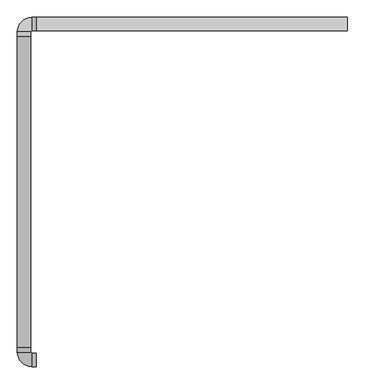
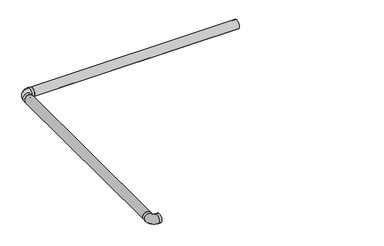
"""IFC4 building model written with IfcOpenShell, lengths in millimetres: light fixture geometry, ARTEMIDE-AoL-StandAlone-SquareRectangular_Suspended : StandALone_Suspended_SquareRectangular-1321x1321mm 9488lm 3000K."""

from ifc_helpers import new_model, si_unit, point, frame, frame_2d, origin, place, context, project, spatial, polyline, circle_curve, ellipse_curve, trimmed, segment, composite_curve, outline, extrude, source, transform, mapped, element, save
from ifc_brep_helpers import plane_surface, cylinder_surface, revolved_surface, advanced_brep


def light_fixture_a19d2202(model_context):
    return source(origin(), model_context, "Body", "SolidModel", [
        advanced_brep(
        [(13.25, -69.5, 502.9333396), (13.25, -69.5, 507.259212), (9.695913, -69.5, 507.259212), (9.695913, -69.5, 508.785971), (15.4937425, -69.5, 508.785971), (15.4937425, -69.5, 514.4273482), (34.5062575, -69.5, 514.4273482), (34.5062575, -69.5, 508.785971), (40.304087, -69.5, 508.785971), (40.304087, -69.5, 507.259212), (36.75, -69.5, 507.259212), (36.75, -69.5, 502.9333396), (70.5, -126.75, 502.9333396), (70.5, -103.25, 502.9333396), (70.5, -103.25, 507.259212), (70.5, -99.695913, 507.259212), (70.5, -99.695913, 508.785971), (70.5, -105.4937425, 508.785971), (70.5, -105.4937425, 514.4273482), (70.5, -124.5062575, 514.4273482), (70.5, -124.5062575, 508.785971), (70.5, -130.304087, 508.785971), (70.5, -130.304087, 507.259212), (70.5, -126.75, 507.259212), (36.75, -85.0, 502.9333396), (13.25, -85.0, 502.9333396), (36.75, -85.0, 507.259212), (40.304087, -85.0, 507.259212), (55.0, -99.695913, 507.259212), (55.0, -103.25, 507.259212), (40.304087, -85.0, 508.785971), (34.5062575, -85.0, 508.785971), (55.0, -105.4937425, 508.785971), (55.0, -99.695913, 508.785971), (34.5062575, -85.0, 514.4273482), (15.4937425, -85.0, 514.4273482), (55.0, -124.5062575, 514.4273482), (55.0, -105.4937425, 514.4273482), (15.4937425, -85.0, 508.785971), (9.695913, -85.0, 508.785971), (55.0, -130.304087, 508.785971), (55.0, -124.5062575, 508.785971), (9.695913, -85.0, 507.259212), (13.25, -85.0, 507.259212), (55.0, -126.75, 507.259212), (55.0, -130.304087, 507.259212), (55.0, -126.75, 502.9333396), (55.0, -103.25, 502.9333396)],
        [
            (0, 1),
            (1, 2),
            (2, 3),
            (3, 4),
            (4, 5),
            (5, 6),
            (6, 7),
            (7, 8),
            (8, 9),
            (9, 10),
            (10, 11),
            (11, 0, circle_curve(frame((25.0, -69.5, 525.0), z_axis=(0.0, 1.0, 0.0), x_axis=(1.0, 0.0, 0.0)), 25.0)),
            (12, 13, circle_curve(frame((70.5, -115.0, 525.0), z_axis=(1.0, 0.0, 0.0), x_axis=(0.0, 1.0, 0.0)), 25.0)),
            (13, 14),
            (14, 15),
            (15, 16),
            (16, 17),
            (17, 18),
            (18, 19),
            (19, 20),
            (20, 21),
            (21, 22),
            (22, 23),
            (23, 12),
            (11, 24),
            (24, 25, circle_curve(frame((25.0, -85.0, 525.0), z_axis=(0.0, 1.0, 0.0), x_axis=(1.0, 0.0, 0.0)), 25.0)),
            (25, 0),
            (10, 26),
            (26, 24),
            (9, 27),
            (27, 28, circle_curve(frame((55.0, -85.0, 507.259212), z_axis=(0.0, 0.0, 1.0), x_axis=(-1.0, 0.0, 0.0)), 14.695913)),
            (28, 15),
            (14, 29),
            (29, 26, circle_curve(frame((55.0, -85.0, 507.259212), z_axis=(0.0, 0.0, -1.0), x_axis=(-1.0, 0.0, 0.0)), 18.25)),
            (8, 30),
            (30, 27),
            (7, 31),
            (31, 32, circle_curve(frame((55.0, -85.0, 508.785971), z_axis=(0.0, 0.0, 1.0), x_axis=(-1.0, 0.0, 0.0)), 20.4937425)),
            (32, 17),
            (16, 33),
            (33, 30, circle_curve(frame((55.0, -85.0, 508.785971), z_axis=(0.0, 0.0, -1.0), x_axis=(-1.0, 0.0, 0.0)), 14.695913)),
            (6, 34),
            (34, 31),
            (5, 35),
            (35, 36, circle_curve(frame((55.0, -85.0, 514.4273482), z_axis=(0.0, 0.0, 1.0), x_axis=(-1.0, 0.0, 0.0)), 39.5062575)),
            (36, 19),
            (18, 37),
            (37, 34, circle_curve(frame((55.0, -85.0, 514.4273482), z_axis=(0.0, 0.0, -1.0), x_axis=(-1.0, 0.0, 0.0)), 20.4937425)),
            (4, 38),
            (38, 35),
            (3, 39),
            (39, 40, circle_curve(frame((55.0, -85.0, 508.785971), z_axis=(0.0, 0.0, 1.0), x_axis=(-1.0, 0.0, 0.0)), 45.304087)),
            (40, 21),
            (20, 41),
            (41, 38, circle_curve(frame((55.0, -85.0, 508.785971), z_axis=(0.0, 0.0, -1.0), x_axis=(-1.0, 0.0, 0.0)), 39.5062575)),
            (2, 42),
            (42, 39),
            (1, 43),
            (43, 44, circle_curve(frame((55.0, -85.0, 507.259212), z_axis=(0.0, 0.0, 1.0), x_axis=(-1.0, 0.0, 0.0)), 41.75)),
            (44, 23),
            (22, 45),
            (45, 42, circle_curve(frame((55.0, -85.0, 507.259212), z_axis=(0.0, 0.0, -1.0), x_axis=(-1.0, 0.0, 0.0)), 45.304087)),
            (25, 43),
            (46, 25, circle_curve(frame((55.0, -85.0, 502.9333396), z_axis=(0.0, 0.0, -1.0), x_axis=(-1.0, 0.0, 0.0)), 41.75)),
            (24, 47, circle_curve(frame((55.0, -85.0, 502.9333396), z_axis=(0.0, 0.0, 1.0), x_axis=(-1.0, 0.0, 0.0)), 18.25)),
            (47, 46, circle_curve(frame((55.0, -115.0, 525.0), z_axis=(-1.0, 0.0, 0.0), x_axis=(0.0, 1.0, 0.0)), 25.0)),
            (29, 47),
            (33, 28),
            (37, 32),
            (41, 36),
            (45, 40),
            (46, 44),
            (47, 13),
            (12, 46),
        ],
        [
            plane_surface(frame((25.0, -69.5, 500.0), z_axis=(0.0, 1.0, 0.0), x_axis=(0.0, 0.0, 1.0))),
            plane_surface(frame((70.5, -115.0, 500.0), z_axis=(1.0, 0.0, 0.0), x_axis=(0.0, 0.0, 1.0))),
            cylinder_surface(frame((25.0, -69.5, 525.0), z_axis=(0.0, 1.0, 0.0), x_axis=(1.0, 0.0, 0.0)), 25.0),
            plane_surface(frame((36.75, -69.5, 507.259212), z_axis=(1.0, 0.0, 0.0), x_axis=(0.0, -1.0, 0.0))),
            plane_surface(frame((40.304087, -69.5, 507.259212), z_axis=(0.0, 0.0, -1.0), x_axis=(0.0, -1.0, 0.0))),
            plane_surface(frame((40.304087, -69.5, 508.785971), z_axis=(1.0, 0.0, 0.0), x_axis=(0.0, -1.0, 0.0))),
            plane_surface(frame((34.5062575, -69.5, 508.785971), z_axis=(0.0, 0.0, 1.0), x_axis=(0.0, -1.0, 0.0))),
            plane_surface(frame((34.5062575, -69.5, 514.4273482), z_axis=(1.0, 0.0, 0.0), x_axis=(0.0, -1.0, 0.0))),
            plane_surface(frame((15.4937425, -69.5, 514.4273482), z_axis=(0.0, 0.0, 1.0), x_axis=(0.0, -1.0, 0.0))),
            plane_surface(frame((15.4937425, -69.5, 508.785971), z_axis=(-1.0, 0.0, 0.0), x_axis=(0.0, -1.0, 0.0))),
            plane_surface(frame((9.695913, -69.5, 508.785971), z_axis=(0.0, 0.0, 1.0), x_axis=(0.0, -1.0, 0.0))),
            plane_surface(frame((9.695913, -69.5, 507.259212), z_axis=(-1.0, 0.0, 0.0), x_axis=(0.0, -1.0, 0.0))),
            plane_surface(frame((13.25, -69.5, 507.259212), z_axis=(0.0, 0.0, -1.0), x_axis=(0.0, -1.0, 0.0))),
            plane_surface(frame((13.25, -69.5, 502.9333396), z_axis=(-1.0, 0.0, 0.0), x_axis=(0.0, -1.0, 0.0))),
            revolved_surface(trimmed(ellipse_curve(frame((25.0, -85.0, 525.0), z_axis=(0.0, 1.0, 0.0), x_axis=(1.0, 0.0, 0.0)), 25.0, 25.0), [point((36.75, -85.0, 502.9333396))], [point((13.25, -85.0, 502.9333396))], True, "CARTESIAN"), (55.0, -85.0, 500.0), (0.0, 0.0, 1.0)),
            revolved_surface(polyline([(36.75, -85.0, 507.259212), (36.75, -85.0, 502.9333396)]), (55.0, -85.0, 500.0), (0.0, 0.0, 1.0)),
            revolved_surface(polyline([(40.304087, -85.0, 508.785971), (40.304087, -85.0, 507.259212)]), (55.0, -85.0, 500.0), (0.0, 0.0, 1.0)),
            revolved_surface(polyline([(34.506257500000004, -85.0, 514.4273482), (34.506257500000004, -85.0, 508.785971)]), (55.0, -85.0, 500.0), (0.0, 0.0, 1.0)),
            cylinder_surface(frame((55.0, -85.0, 500.0), z_axis=(0.0, 0.0, 1.0), x_axis=(-1.0, 0.0, 0.0)), 39.5062575),
            cylinder_surface(frame((55.0, -85.0, 500.0), z_axis=(0.0, 0.0, 1.0), x_axis=(-1.0, 0.0, 0.0)), 45.304087),
            cylinder_surface(frame((55.0, -85.0, 500.0), z_axis=(0.0, 0.0, 1.0), x_axis=(-1.0, 0.0, 0.0)), 41.75),
            cylinder_surface(frame((55.0, -115.0, 525.0), z_axis=(-1.0, 0.0, 0.0), x_axis=(0.0, 1.0, 0.0)), 25.0),
            plane_surface(frame((55.0, -103.25, 507.259212), z_axis=(0.0, 1.0, 0.0), x_axis=(1.0, 0.0, 0.0))),
            plane_surface(frame((55.0, -99.695913, 508.785971), z_axis=(0.0, 1.0, 0.0), x_axis=(1.0, 0.0, 0.0))),
            plane_surface(frame((55.0, -105.4937425, 514.4273482), z_axis=(0.0, 1.0, 0.0), x_axis=(1.0, 0.0, 0.0))),
            plane_surface(frame((55.0, -124.5062575, 508.785971), z_axis=(0.0, -1.0, 0.0), x_axis=(1.0, 0.0, 0.0))),
            plane_surface(frame((55.0, -130.304087, 507.259212), z_axis=(0.0, -1.0, 0.0), x_axis=(1.0, 0.0, 0.0))),
            plane_surface(frame((55.0, -126.75, 502.9333396), z_axis=(0.0, -1.0, 0.0), x_axis=(1.0, 0.0, 0.0))),
        ],
        [
            (0, [[1, 2, 3, 4, 5, 6, 7, 8, 9, 10, 11, 12]]),
            (1, [[13, 14, 15, 16, 17, 18, 19, 20, 21, 22, 23, 24]]),
            (2, [[-12, 25, 26, 27]]),
            (3, [[-11, 28, 29, -25]]),
            (4, [[-10, 30, 31, 32, -15, 33, 34, -28]]),
            (5, [[-9, 35, 36, -30]]),
            (6, [[-8, 37, 38, 39, -17, 40, 41, -35]]),
            (7, [[-7, 42, 43, -37]]),
            (8, [[-6, 44, 45, 46, -19, 47, 48, -42]]),
            (9, [[-5, 49, 50, -44]]),
            (10, [[-4, 51, 52, 53, -21, 54, 55, -49]]),
            (11, [[-3, 56, 57, -51]]),
            (12, [[-2, 58, 59, 60, -23, 61, 62, -56]]),
            (13, [[-1, -27, 63, -58]]),
            (14, [[64, -26, 65, 66]]),
            (15, [[-65, -29, -34, 67]]),
            (16, [[-31, -36, -41, 68]]),
            (17, [[-38, -43, -48, 69]]),
            (18, [[-45, -50, -55, 70]]),
            (19, [[-52, -57, -62, 71]]),
            (20, [[-59, -63, -64, 72]]),
            (21, [[-66, 73, -13, 74]]),
            (22, [[-67, -33, -14, -73]]),
            (23, [[-68, -40, -16, -32]]),
            (24, [[-69, -47, -18, -39]]),
            (25, [[-70, -54, -20, -46]]),
            (26, [[-71, -61, -22, -53]]),
            (27, [[-72, -74, -24, -60]]),
        ],
    ),
        advanced_brep(
        [(36.75, -69.5, 502.9333396), (36.75, -69.5, 507.259212), (38.667754, -69.5, 507.259212), (38.667754, -69.5, 505.8288843), (40.617754, -69.5, 507.2440748), (40.617754, -69.5, 509.244074), (37.667754, -69.5, 509.244074), (37.667754, -69.5, 510.744074), (42.2779794, -69.5, 510.744074), (7.7220206, -69.5, 510.744074), (12.332246, -69.5, 510.744074), (12.332246, -69.5, 509.244074), (9.382246, -69.5, 509.244074), (9.382246, -69.5, 507.2440748), (11.332246, -69.5, 505.8288843), (11.332246, -69.5, 507.259212), (13.25, -69.5, 507.259212), (13.25, -69.5, 502.9333396), (70.5, -103.25, 502.9333396), (70.5, -126.75, 502.9333396), (70.5, -126.75, 507.259212), (70.5, -128.667754, 507.259212), (70.5, -128.667754, 505.8288843), (70.5, -130.617754, 507.2440748), (70.5, -130.617754, 509.244074), (70.5, -127.667754, 509.244074), (70.5, -127.667754, 510.744074), (70.5, -132.2779794, 510.744074), (70.5, -97.7220206, 510.744074), (70.5, -102.332246, 510.744074), (70.5, -102.332246, 509.244074), (70.5, -99.382246, 509.244074), (70.5, -99.382246, 507.2440748), (70.5, -101.332246, 505.8288843), (70.5, -101.332246, 507.259212), (70.5, -103.25, 507.259212), (13.25, -85.0, 502.9333396), (36.75, -85.0, 502.9333396), (13.25, -85.0, 507.259212), (11.332246, -85.0, 507.259212), (55.0, -128.667754, 507.259212), (55.0, -126.75, 507.259212), (11.332246, -85.0, 505.8288843), (9.382246, -85.0, 507.2440748), (9.382246, -85.0, 509.244074), (12.332246, -85.0, 509.244074), (55.0, -127.667754, 509.244074), (55.0, -130.617754, 509.244074), (12.332246, -85.0, 510.744074), (7.7220206, -85.0, 510.744074), (55.0, -132.2779794, 510.744074), (55.0, -127.667754, 510.744074), (42.2779794, -85.0, 510.744074), (37.667754, -85.0, 510.744074), (55.0, -102.332246, 510.744074), (55.0, -97.7220206, 510.744074), (37.667754, -85.0, 509.244074), (40.617754, -85.0, 509.244074), (55.0, -99.382246, 509.244074), (55.0, -102.332246, 509.244074), (40.617754, -85.0, 507.2440748), (38.667754, -85.0, 505.8288843), (38.667754, -85.0, 507.259212), (36.75, -85.0, 507.259212), (55.0, -103.25, 507.259212), (55.0, -101.332246, 507.259212), (55.0, -103.25, 502.9333396), (55.0, -126.75, 502.9333396), (55.0, -128.667754, 505.8288843), (55.0, -130.617754, 507.2440748), (55.0, -99.382246, 507.2440748), (55.0, -101.332246, 505.8288843)],
        [
            (0, 1),
            (1, 2),
            (2, 3),
            (3, 4),
            (4, 5),
            (5, 6),
            (6, 7),
            (7, 8),
            (8, 9, circle_curve(frame((25.0, -69.5, 525.0), z_axis=(0.0, -1.0, 0.0), x_axis=(1.0, 0.0, 0.0)), 22.4)),
            (9, 10),
            (10, 11),
            (11, 12),
            (12, 13),
            (13, 14),
            (14, 15),
            (15, 16),
            (16, 17),
            (17, 0, circle_curve(frame((25.0, -69.5, 525.0), z_axis=(0.0, 1.0, 0.0), x_axis=(1.0, 0.0, 0.0)), 25.0)),
            (18, 19, circle_curve(frame((70.5, -115.0, 525.0), z_axis=(1.0, 0.0, 0.0), x_axis=(0.0, 1.0, 0.0)), 25.0)),
            (19, 20),
            (20, 21),
            (21, 22),
            (22, 23),
            (23, 24),
            (24, 25),
            (25, 26),
            (26, 27),
            (27, 28, circle_curve(frame((70.5, -115.0, 525.0), z_axis=(-1.0, 0.0, 0.0), x_axis=(0.0, 1.0, 0.0)), 22.4)),
            (28, 29),
            (29, 30),
            (30, 31),
            (31, 32),
            (32, 33),
            (33, 34),
            (34, 35),
            (35, 18),
            (17, 36),
            (36, 37, circle_curve(frame((25.0, -85.0, 525.0), z_axis=(0.0, 1.0, 0.0), x_axis=(1.0, 0.0, 0.0)), 25.0)),
            (37, 0),
            (16, 38),
            (38, 36),
            (15, 39),
            (39, 40, circle_curve(frame((55.0, -85.0, 507.259212), z_axis=(0.0, 0.0, 1.0), x_axis=(-1.0, 0.0, 0.0)), 43.667754)),
            (40, 21),
            (20, 41),
            (41, 38, circle_curve(frame((55.0, -85.0, 507.259212), z_axis=(0.0, 0.0, -1.0), x_axis=(-1.0, 0.0, 0.0)), 41.75)),
            (14, 42),
            (42, 39),
            (13, 43),
            (43, 42),
            (12, 44),
            (44, 43),
            (11, 45),
            (45, 46, circle_curve(frame((55.0, -85.0, 509.244074), z_axis=(0.0, 0.0, 1.0), x_axis=(-1.0, 0.0, 0.0)), 42.667754)),
            (46, 25),
            (24, 47),
            (47, 44, circle_curve(frame((55.0, -85.0, 509.244074), z_axis=(0.0, 0.0, -1.0), x_axis=(-1.0, 0.0, 0.0)), 45.617754)),
            (10, 48),
            (48, 45),
            (9, 49),
            (49, 50, circle_curve(frame((55.0, -85.0, 510.744074), z_axis=(0.0, 0.0, 1.0), x_axis=(-1.0, 0.0, 0.0)), 47.2779794)),
            (50, 27),
            (26, 51),
            (51, 48, circle_curve(frame((55.0, -85.0, 510.744074), z_axis=(0.0, 0.0, -1.0), x_axis=(-1.0, 0.0, 0.0)), 42.667754)),
            (8, 52),
            (52, 49, circle_curve(frame((25.0, -85.0, 525.0), z_axis=(0.0, -1.0, 0.0), x_axis=(1.0, 0.0, 0.0)), 22.4)),
            (7, 53),
            (53, 54, circle_curve(frame((55.0, -85.0, 510.744074), z_axis=(0.0, 0.0, 1.0), x_axis=(-1.0, 0.0, 0.0)), 17.332246)),
            (54, 29),
            (28, 55),
            (55, 52, circle_curve(frame((55.0, -85.0, 510.744074), z_axis=(0.0, 0.0, -1.0), x_axis=(-1.0, 0.0, 0.0)), 12.7220206)),
            (6, 56),
            (56, 53),
            (5, 57),
            (57, 58, circle_curve(frame((55.0, -85.0, 509.244074), z_axis=(0.0, 0.0, 1.0), x_axis=(-1.0, 0.0, 0.0)), 14.382246)),
            (58, 31),
            (30, 59),
            (59, 56, circle_curve(frame((55.0, -85.0, 509.244074), z_axis=(0.0, 0.0, -1.0), x_axis=(-1.0, 0.0, 0.0)), 17.332246)),
            (4, 60),
            (60, 57),
            (3, 61),
            (61, 60),
            (2, 62),
            (62, 61),
            (1, 63),
            (63, 64, circle_curve(frame((55.0, -85.0, 507.259212), z_axis=(0.0, 0.0, 1.0), x_axis=(-1.0, 0.0, 0.0)), 18.25)),
            (64, 35),
            (34, 65),
            (65, 62, circle_curve(frame((55.0, -85.0, 507.259212), z_axis=(0.0, 0.0, -1.0), x_axis=(-1.0, 0.0, 0.0)), 16.332246)),
            (37, 63),
            (66, 37, circle_curve(frame((55.0, -85.0, 502.9333396), z_axis=(0.0, 0.0, -1.0), x_axis=(-1.0, 0.0, 0.0)), 18.25)),
            (36, 67, circle_curve(frame((55.0, -85.0, 502.9333396), z_axis=(0.0, 0.0, 1.0), x_axis=(-1.0, 0.0, 0.0)), 41.75)),
            (67, 66, circle_curve(frame((55.0, -115.0, 525.0), z_axis=(-1.0, 0.0, 0.0), x_axis=(0.0, 1.0, 0.0)), 25.0)),
            (41, 67),
            (42, 68, circle_curve(frame((55.0, -85.0, 505.8288843), z_axis=(0.0, 0.0, 1.0), x_axis=(-1.0, 0.0, 0.0)), 43.667754)),
            (68, 40),
            (43, 69, circle_curve(frame((55.0, -85.0, 507.2440748), z_axis=(0.0, 0.0, 1.0), x_axis=(-1.0, 0.0, 0.0)), 45.617754)),
            (69, 68),
            (47, 69),
            (51, 46),
            (55, 50, circle_curve(frame((55.0, -115.0, 525.0), z_axis=(1.0, 0.0, 0.0), x_axis=(0.0, 1.0, 0.0)), 22.4)),
            (59, 54),
            (60, 70, circle_curve(frame((55.0, -85.0, 507.2440748), z_axis=(0.0, 0.0, 1.0), x_axis=(-1.0, 0.0, 0.0)), 14.382246)),
            (70, 58),
            (61, 71, circle_curve(frame((55.0, -85.0, 505.8288843), z_axis=(0.0, 0.0, 1.0), x_axis=(-1.0, 0.0, 0.0)), 16.332246)),
            (71, 70),
            (65, 71),
            (66, 64),
            (67, 19),
            (18, 66),
            (68, 22),
            (69, 23),
            (70, 32),
            (71, 33),
        ],
        [
            plane_surface(frame((25.0, -69.5, 500.0), z_axis=(0.0, 1.0, 0.0), x_axis=(0.0, 0.0, 1.0))),
            plane_surface(frame((70.5, -115.0, 500.0), z_axis=(1.0, 0.0, 0.0), x_axis=(0.0, 0.0, 1.0))),
            cylinder_surface(frame((25.0, -69.5, 525.0), z_axis=(0.0, 1.0, 0.0), x_axis=(1.0, 0.0, 0.0)), 25.0),
            plane_surface(frame((13.25, -69.5, 507.259212), z_axis=(1.0, 0.0, 0.0), x_axis=(0.0, -1.0, 0.0))),
            plane_surface(frame((11.332246, -69.5, 507.259212), z_axis=(0.0, 0.0, 1.0), x_axis=(0.0, -1.0, 0.0))),
            plane_surface(frame((11.332246, -69.5, 505.8288843), z_axis=(-1.0, 0.0, 0.0), x_axis=(0.0, -1.0, 0.0))),
            plane_surface(frame((9.382246, -69.5, 507.2440748), z_axis=(0.5873593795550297, 0.0, 0.8093262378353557), x_axis=(0.0, -1.0, 0.0))),
            plane_surface(frame((9.382246, -69.5, 509.244074), z_axis=(1.0, 0.0, 0.0), x_axis=(0.0, -1.0, 0.0))),
            plane_surface(frame((12.332246, -69.5, 509.244074), z_axis=(0.0, 0.0, -1.0), x_axis=(0.0, -1.0, 0.0))),
            plane_surface(frame((12.332246, -69.5, 510.744074), z_axis=(1.0, 0.0, 0.0), x_axis=(0.0, -1.0, 0.0))),
            plane_surface(frame((7.7220206, -69.5, 510.744074), z_axis=(0.0, 0.0, 1.0), x_axis=(0.0, -1.0, 0.0))),
            revolved_surface(polyline([(47.4, -85.0, 525.0), (47.4, -69.5, 525.0)]), (25.0, -69.5, 525.0), (0.0, -1.0, 0.0)),
            plane_surface(frame((37.667754, -69.5, 510.744074), z_axis=(0.0, 0.0, 1.0), x_axis=(0.0, -1.0, 0.0))),
            plane_surface(frame((37.667754, -69.5, 509.244074), z_axis=(-1.0, 0.0, 0.0), x_axis=(0.0, -1.0, 0.0))),
            plane_surface(frame((40.617754, -69.5, 509.244074), z_axis=(0.0, 0.0, -1.0), x_axis=(0.0, -1.0, 0.0))),
            plane_surface(frame((40.617754, -69.5, 507.2440748), z_axis=(-1.0, 0.0, 0.0), x_axis=(0.0, -1.0, 0.0))),
            plane_surface(frame((38.667754, -69.5, 505.8288843), z_axis=(-0.5873593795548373, 0.0, 0.8093262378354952), x_axis=(0.0, -1.0, 0.0))),
            plane_surface(frame((38.667754, -69.5, 507.259212), z_axis=(1.0, 0.0, 0.0), x_axis=(0.0, -1.0, 0.0))),
            plane_surface(frame((36.75, -69.5, 507.259212), z_axis=(0.0, 0.0, 1.0), x_axis=(0.0, -1.0, 0.0))),
            plane_surface(frame((36.75, -69.5, 502.9333396), z_axis=(-1.0, 0.0, 0.0), x_axis=(0.0, -1.0, 0.0))),
            revolved_surface(trimmed(ellipse_curve(frame((25.0, -85.0, 525.0), z_axis=(0.0, 1.0, 0.0), x_axis=(1.0, 0.0, 0.0)), 25.0, 25.0), [point((13.25, -85.0, 502.9333396))], [point((36.75, -85.0, 502.9333396))], True, "CARTESIAN"), (55.0, -85.0, 500.0), (0.0, 0.0, 1.0)),
            revolved_surface(polyline([(13.25, -85.0, 507.259212), (13.25, -85.0, 502.9333396)]), (55.0, -85.0, 500.0), (0.0, 0.0, 1.0)),
            cylinder_surface(frame((55.0, -85.0, 500.0), z_axis=(0.0, 0.0, 1.0), x_axis=(-1.0, 0.0, 0.0)), 43.667754),
            revolved_surface(polyline([(9.382246, -85.0, 507.2440748), (11.332246, -85.0, 505.8288843)]), (55.0, -85.0, 500.0), (0.0, 0.0, 1.0)),
            revolved_surface(polyline([(9.382246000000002, -85.0, 509.244074), (9.382246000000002, -85.0, 507.2440748)]), (55.0, -85.0, 500.0), (0.0, 0.0, 1.0)),
            revolved_surface(polyline([(12.332245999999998, -85.0, 510.744074), (12.332245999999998, -85.0, 509.244074)]), (55.0, -85.0, 500.0), (0.0, 0.0, 1.0)),
            revolved_surface(trimmed(ellipse_curve(frame((25.0, -85.0, 525.0), z_axis=(0.0, -1.0, 0.0), x_axis=(1.0, 0.0, 0.0)), 22.4, 22.4), [point((42.2779794, -85.0, 510.744074))], [point((7.7220206, -85.0, 510.744074))], True, "CARTESIAN"), (55.0, -85.0, 500.0), (0.0, 0.0, 1.0)),
            cylinder_surface(frame((55.0, -85.0, 500.0), z_axis=(0.0, 0.0, 1.0), x_axis=(-1.0, 0.0, 0.0)), 17.332246),
            cylinder_surface(frame((55.0, -85.0, 500.0), z_axis=(0.0, 0.0, 1.0), x_axis=(-1.0, 0.0, 0.0)), 14.382246),
            revolved_surface(polyline([(38.667754, -85.0, 505.8288843), (40.617754, -85.0, 507.2440748)]), (55.0, -85.0, 500.0), (0.0, 0.0, 1.0)),
            revolved_surface(polyline([(38.667754, -85.0, 507.259212), (38.667754, -85.0, 505.8288843)]), (55.0, -85.0, 500.0), (0.0, 0.0, 1.0)),
            cylinder_surface(frame((55.0, -85.0, 500.0), z_axis=(0.0, 0.0, 1.0), x_axis=(-1.0, 0.0, 0.0)), 18.25),
            cylinder_surface(frame((55.0, -115.0, 525.0), z_axis=(-1.0, 0.0, 0.0), x_axis=(0.0, 1.0, 0.0)), 25.0),
            plane_surface(frame((55.0, -126.75, 507.259212), z_axis=(0.0, 1.0, 0.0), x_axis=(1.0, 0.0, 0.0))),
            plane_surface(frame((55.0, -128.667754, 505.8288843), z_axis=(0.0, -1.0, 0.0), x_axis=(1.0, 0.0, 0.0))),
            plane_surface(frame((55.0, -130.617754, 507.2440748), z_axis=(0.0, 0.5873593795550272, 0.8093262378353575), x_axis=(1.0, 0.0, 0.0))),
            plane_surface(frame((55.0, -130.617754, 509.244074), z_axis=(0.0, 1.0, 0.0), x_axis=(1.0, 0.0, 0.0))),
            plane_surface(frame((55.0, -127.667754, 510.744074), z_axis=(0.0, 1.0, 0.0), x_axis=(1.0, 0.0, 0.0))),
            revolved_surface(polyline([(70.5, -92.6, 525.0), (55.0, -92.6, 525.0)]), (55.0, -115.0, 525.0), (1.0, 0.0, 0.0)),
            plane_surface(frame((55.0, -102.332246, 509.244074), z_axis=(0.0, -1.0, 0.0), x_axis=(1.0, 0.0, 0.0))),
            plane_surface(frame((55.0, -99.382246, 507.2440748), z_axis=(0.0, -1.0, 0.0), x_axis=(1.0, 0.0, 0.0))),
            plane_surface(frame((55.0, -101.332246, 505.8288843), z_axis=(0.0, -0.5873593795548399, 0.8093262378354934), x_axis=(1.0, 0.0, 0.0))),
            plane_surface(frame((55.0, -101.332246, 507.259212), z_axis=(0.0, 1.0, 0.0), x_axis=(1.0, 0.0, 0.0))),
            plane_surface(frame((55.0, -103.25, 502.9333396), z_axis=(0.0, -1.0, 0.0), x_axis=(1.0, 0.0, 0.0))),
        ],
        [
            (0, [[1, 2, 3, 4, 5, 6, 7, 8, 9, 10, 11, 12, 13, 14, 15, 16, 17, 18]]),
            (1, [[19, 20, 21, 22, 23, 24, 25, 26, 27, 28, 29, 30, 31, 32, 33, 34, 35, 36]]),
            (2, [[-18, 37, 38, 39]]),
            (3, [[-17, 40, 41, -37]]),
            (4, [[-16, 42, 43, 44, -21, 45, 46, -40]]),
            (5, [[-15, 47, 48, -42]]),
            (6, [[-14, 49, 50, -47]]),
            (7, [[-13, 51, 52, -49]]),
            (8, [[-12, 53, 54, 55, -25, 56, 57, -51]]),
            (9, [[-11, 58, 59, -53]]),
            (10, [[-10, 60, 61, 62, -27, 63, 64, -58]]),
            (11, [[-9, 65, 66, -60]]),
            (12, [[-8, 67, 68, 69, -29, 70, 71, -65]]),
            (13, [[-7, 72, 73, -67]]),
            (14, [[-6, 74, 75, 76, -31, 77, 78, -72]]),
            (15, [[-5, 79, 80, -74]]),
            (16, [[-4, 81, 82, -79]]),
            (17, [[-3, 83, 84, -81]]),
            (18, [[-2, 85, 86, 87, -35, 88, 89, -83]]),
            (19, [[-1, -39, 90, -85]]),
            (20, [[91, -38, 92, 93]]),
            (21, [[-92, -41, -46, 94]]),
            (22, [[-43, -48, 95, 96]]),
            (23, [[-95, -50, 97, 98]]),
            (24, [[-97, -52, -57, 99]]),
            (25, [[-54, -59, -64, 100]]),
            (26, [[-61, -66, -71, 101]]),
            (27, [[-68, -73, -78, 102]]),
            (28, [[-75, -80, 103, 104]]),
            (29, [[-103, -82, 105, 106]]),
            (30, [[-105, -84, -89, 107]]),
            (31, [[-86, -90, -91, 108]]),
            (32, [[-93, 109, -19, 110]]),
            (33, [[-94, -45, -20, -109]]),
            (34, [[-96, 111, -22, -44]]),
            (35, [[-98, 112, -23, -111]]),
            (36, [[-99, -56, -24, -112]]),
            (37, [[-100, -63, -26, -55]]),
            (38, [[-101, -70, -28, -62]]),
            (39, [[-102, -77, -30, -69]]),
            (40, [[-104, 113, -32, -76]]),
            (41, [[-106, 114, -33, -113]]),
            (42, [[-107, -88, -34, -114]]),
            (43, [[-108, -110, -36, -87]]),
        ],
    ),
        advanced_brep(
        [(13.25, 1110.5, 502.9333396), (36.75, 1110.5, 502.9333396), (36.75, 1110.5, 507.259212), (40.304087, 1110.5, 507.259212), (40.304087, 1110.5, 508.785971), (34.5062575, 1110.5, 508.785971), (34.5062575, 1110.5, 514.4273482), (15.4937425, 1110.5, 514.4273482), (15.4937425, 1110.5, 508.785971), (9.695913, 1110.5, 508.785971), (9.695913, 1110.5, 507.259212), (13.25, 1110.5, 507.259212), (70.5, 1167.75, 502.9333396), (70.5, 1167.75, 507.259212), (70.5, 1171.304087, 507.259212), (70.5, 1171.304087, 508.785971), (70.5, 1165.5062575, 508.785971), (70.5, 1165.5062575, 514.4273482), (70.5, 1146.4937425, 514.4273482), (70.5, 1146.4937425, 508.785971), (70.5, 1140.695913, 508.785971), (70.5, 1140.695913, 507.259212), (70.5, 1144.25, 507.259212), (70.5, 1144.25, 502.9333396), (13.25, 1126.0, 502.9333396), (36.75, 1126.0, 502.9333396), (36.75, 1126.0, 507.259212), (55.0, 1144.25, 507.259212), (55.0, 1140.695913, 507.259212), (40.304087, 1126.0, 507.259212), (40.304087, 1126.0, 508.785971), (55.0, 1140.695913, 508.785971), (55.0, 1146.4937425, 508.785971), (34.5062575, 1126.0, 508.785971), (34.5062575, 1126.0, 514.4273482), (55.0, 1146.4937425, 514.4273482), (55.0, 1165.5062575, 514.4273482), (15.4937425, 1126.0, 514.4273482), (15.4937425, 1126.0, 508.785971), (55.0, 1165.5062575, 508.785971), (55.0, 1171.304087, 508.785971), (9.695913, 1126.0, 508.785971), (9.695913, 1126.0, 507.259212), (55.0, 1171.304087, 507.259212), (55.0, 1167.75, 507.259212), (13.25, 1126.0, 507.259212), (55.0, 1144.25, 502.9333396), (55.0, 1167.75, 502.9333396)],
        [
            (0, 1, circle_curve(frame((25.0, 1110.5, 525.0), z_axis=(0.0, -1.0, 0.0), x_axis=(-1.0, 0.0, 0.0)), 25.0)),
            (1, 2),
            (2, 3),
            (3, 4),
            (4, 5),
            (5, 6),
            (6, 7),
            (7, 8),
            (8, 9),
            (9, 10),
            (10, 11),
            (11, 0),
            (12, 13),
            (13, 14),
            (14, 15),
            (15, 16),
            (16, 17),
            (17, 18),
            (18, 19),
            (19, 20),
            (20, 21),
            (21, 22),
            (22, 23),
            (23, 12, circle_curve(frame((70.5, 1156.0, 525.0), z_axis=(1.0, 0.0, 0.0), x_axis=(0.0, 1.0, 0.0)), 25.0)),
            (0, 24),
            (24, 25, circle_curve(frame((25.0, 1126.0, 525.0), z_axis=(0.0, -1.0, 0.0), x_axis=(-1.0, 0.0, 0.0)), 25.0)),
            (25, 1),
            (25, 26),
            (26, 2),
            (26, 27, circle_curve(frame((55.0, 1126.0, 507.259212), z_axis=(0.0, 0.0, -1.0), x_axis=(-1.0, 0.0, 0.0)), 18.25)),
            (27, 22),
            (21, 28),
            (28, 29, circle_curve(frame((55.0, 1126.0, 507.259212), z_axis=(0.0, 0.0, 1.0), x_axis=(-1.0, 0.0, 0.0)), 14.695913)),
            (29, 3),
            (29, 30),
            (30, 4),
            (30, 31, circle_curve(frame((55.0, 1126.0, 508.785971), z_axis=(0.0, 0.0, -1.0), x_axis=(-1.0, 0.0, 0.0)), 14.695913)),
            (31, 20),
            (19, 32),
            (32, 33, circle_curve(frame((55.0, 1126.0, 508.785971), z_axis=(0.0, 0.0, 1.0), x_axis=(-1.0, 0.0, 0.0)), 20.4937425)),
            (33, 5),
            (33, 34),
            (34, 6),
            (34, 35, circle_curve(frame((55.0, 1126.0, 514.4273482), z_axis=(0.0, 0.0, -1.0), x_axis=(-1.0, 0.0, 0.0)), 20.4937425)),
            (35, 18),
            (17, 36),
            (36, 37, circle_curve(frame((55.0, 1126.0, 514.4273482), z_axis=(0.0, 0.0, 1.0), x_axis=(-1.0, 0.0, 0.0)), 39.5062575)),
            (37, 7),
            (37, 38),
            (38, 8),
            (38, 39, circle_curve(frame((55.0, 1126.0, 508.785971), z_axis=(0.0, 0.0, -1.0), x_axis=(-1.0, 0.0, 0.0)), 39.5062575)),
            (39, 16),
            (15, 40),
            (40, 41, circle_curve(frame((55.0, 1126.0, 508.785971), z_axis=(0.0, 0.0, 1.0), x_axis=(-1.0, 0.0, 0.0)), 45.304087)),
            (41, 9),
            (41, 42),
            (42, 10),
            (42, 43, circle_curve(frame((55.0, 1126.0, 507.259212), z_axis=(0.0, 0.0, -1.0), x_axis=(-1.0, 0.0, 0.0)), 45.304087)),
            (43, 14),
            (13, 44),
            (44, 45, circle_curve(frame((55.0, 1126.0, 507.259212), z_axis=(0.0, 0.0, 1.0), x_axis=(-1.0, 0.0, 0.0)), 41.75)),
            (45, 11),
            (45, 24),
            (46, 25, circle_curve(frame((55.0, 1126.0, 502.9333396), z_axis=(0.0, 0.0, 1.0), x_axis=(-1.0, 0.0, 0.0)), 18.25)),
            (24, 47, circle_curve(frame((55.0, 1126.0, 502.9333396), z_axis=(0.0, 0.0, -1.0), x_axis=(-1.0, 0.0, 0.0)), 41.75)),
            (47, 46, circle_curve(frame((55.0, 1156.0, 525.0), z_axis=(-1.0, 0.0, 0.0), x_axis=(0.0, 1.0, 0.0)), 25.0)),
            (46, 27),
            (28, 31),
            (32, 35),
            (36, 39),
            (40, 43),
            (44, 47),
            (47, 12),
            (23, 46),
        ],
        [
            plane_surface(frame((25.0, 1110.5, 500.0), z_axis=(0.0, -1.0, 0.0), x_axis=(0.0, 0.0, 1.0))),
            plane_surface(frame((70.5, 1156.0, 500.0), z_axis=(1.0, 0.0, 0.0), x_axis=(0.0, 0.0, 1.0))),
            cylinder_surface(frame((25.0, 1110.5, 525.0), z_axis=(0.0, -1.0, 0.0), x_axis=(-1.0, 0.0, 0.0)), 25.0),
            plane_surface(frame((36.75, 1110.5, 502.9333396), z_axis=(1.0, 0.0, 0.0), x_axis=(0.0, 1.0, 0.0))),
            plane_surface(frame((36.75, 1110.5, 507.259212), z_axis=(0.0, 0.0, -1.0), x_axis=(0.0, 1.0, 0.0))),
            plane_surface(frame((40.304087, 1110.5, 507.259212), z_axis=(1.0, 0.0, 0.0), x_axis=(0.0, 1.0, 0.0))),
            plane_surface(frame((40.304087, 1110.5, 508.785971), z_axis=(0.0, 0.0, 1.0), x_axis=(0.0, 1.0, 0.0))),
            plane_surface(frame((34.5062575, 1110.5, 508.785971), z_axis=(1.0, 0.0, 0.0), x_axis=(0.0, 1.0, 0.0))),
            plane_surface(frame((34.5062575, 1110.5, 514.4273482), z_axis=(0.0, 0.0, 1.0), x_axis=(0.0, 1.0, 0.0))),
            plane_surface(frame((15.4937425, 1110.5, 514.4273482), z_axis=(-1.0, 0.0, 0.0), x_axis=(0.0, 1.0, 0.0))),
            plane_surface(frame((15.4937425, 1110.5, 508.785971), z_axis=(0.0, 0.0, 1.0), x_axis=(0.0, 1.0, 0.0))),
            plane_surface(frame((9.695913, 1110.5, 508.785971), z_axis=(-1.0, 0.0, 0.0), x_axis=(0.0, 1.0, 0.0))),
            plane_surface(frame((9.695913, 1110.5, 507.259212), z_axis=(0.0, 0.0, -1.0), x_axis=(0.0, 1.0, 0.0))),
            plane_surface(frame((13.25, 1110.5, 507.259212), z_axis=(-1.0, 0.0, 0.0), x_axis=(0.0, 1.0, 0.0))),
            revolved_surface(trimmed(ellipse_curve(frame((25.0, 1126.0, 525.0), z_axis=(0.0, -1.0, 0.0), x_axis=(-1.0, 0.0, 0.0)), 25.0, 25.0), [point((13.25, 1126.0, 502.9333396))], [point((36.75, 1126.0, 502.9333396))], True, "CARTESIAN"), (55.0, 1126.0, 500.0), (0.0, 0.0, -1.0)),
            revolved_surface(polyline([(36.75, 1126.0, 502.9333396), (36.75, 1126.0, 507.259212)]), (55.0, 1126.0, 500.0), (0.0, 0.0, -1.0)),
            revolved_surface(polyline([(40.304087, 1126.0, 507.259212), (40.304087, 1126.0, 508.785971)]), (55.0, 1126.0, 500.0), (0.0, 0.0, -1.0)),
            revolved_surface(polyline([(34.506257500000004, 1126.0, 508.785971), (34.506257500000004, 1126.0, 514.4273482)]), (55.0, 1126.0, 500.0), (0.0, 0.0, -1.0)),
            cylinder_surface(frame((55.0, 1126.0, 500.0), z_axis=(0.0, 0.0, -1.0), x_axis=(-1.0, 0.0, 0.0)), 39.5062575),
            cylinder_surface(frame((55.0, 1126.0, 500.0), z_axis=(0.0, 0.0, -1.0), x_axis=(-1.0, 0.0, 0.0)), 45.304087),
            cylinder_surface(frame((55.0, 1126.0, 500.0), z_axis=(0.0, 0.0, -1.0), x_axis=(-1.0, 0.0, 0.0)), 41.75),
            cylinder_surface(frame((55.0, 1156.0, 525.0), z_axis=(-1.0, 0.0, 0.0), x_axis=(0.0, 1.0, 0.0)), 25.0),
            plane_surface(frame((55.0, 1144.25, 502.9333396), z_axis=(0.0, -1.0, 0.0), x_axis=(1.0, 0.0, 0.0))),
            plane_surface(frame((55.0, 1140.695913, 507.259212), z_axis=(0.0, -1.0, 0.0), x_axis=(1.0, 0.0, 0.0))),
            plane_surface(frame((55.0, 1146.4937425, 508.785971), z_axis=(0.0, -1.0, 0.0), x_axis=(1.0, 0.0, 0.0))),
            plane_surface(frame((55.0, 1165.5062575, 514.4273482), z_axis=(0.0, 1.0, 0.0), x_axis=(1.0, 0.0, 0.0))),
            plane_surface(frame((55.0, 1171.304087, 508.785971), z_axis=(0.0, 1.0, 0.0), x_axis=(1.0, 0.0, 0.0))),
            plane_surface(frame((55.0, 1167.75, 507.259212), z_axis=(0.0, 1.0, 0.0), x_axis=(1.0, 0.0, 0.0))),
        ],
        [
            (0, [[1, 2, 3, 4, 5, 6, 7, 8, 9, 10, 11, 12]]),
            (1, [[13, 14, 15, 16, 17, 18, 19, 20, 21, 22, 23, 24]]),
            (2, [[-1, 25, 26, 27]]),
            (3, [[-2, -27, 28, 29]]),
            (4, [[-3, -29, 30, 31, -22, 32, 33, 34]]),
            (5, [[-4, -34, 35, 36]]),
            (6, [[-5, -36, 37, 38, -20, 39, 40, 41]]),
            (7, [[-6, -41, 42, 43]]),
            (8, [[-7, -43, 44, 45, -18, 46, 47, 48]]),
            (9, [[-8, -48, 49, 50]]),
            (10, [[-9, -50, 51, 52, -16, 53, 54, 55]]),
            (11, [[-10, -55, 56, 57]]),
            (12, [[-11, -57, 58, 59, -14, 60, 61, 62]]),
            (13, [[-12, -62, 63, -25]]),
            (14, [[64, -26, 65, 66]]),
            (15, [[-30, -28, -64, 67]]),
            (16, [[-37, -35, -33, 68]]),
            (17, [[-44, -42, -40, 69]]),
            (18, [[-51, -49, -47, 70]]),
            (19, [[-58, -56, -54, 71]]),
            (20, [[-65, -63, -61, 72]]),
            (21, [[-66, 73, -24, 74]]),
            (22, [[-67, -74, -23, -31]]),
            (23, [[-68, -32, -21, -38]]),
            (24, [[-69, -39, -19, -45]]),
            (25, [[-70, -46, -17, -52]]),
            (26, [[-71, -53, -15, -59]]),
            (27, [[-72, -60, -13, -73]]),
        ],
    ),
        advanced_brep(
        [(36.75, 1110.5, 502.9333396), (13.25, 1110.5, 502.9333396), (13.25, 1110.5, 507.259212), (11.332246, 1110.5, 507.259212), (11.332246, 1110.5, 505.8288843), (9.382246, 1110.5, 507.2440748), (9.382246, 1110.5, 509.244074), (12.332246, 1110.5, 509.244074), (12.332246, 1110.5, 510.744074), (7.7220206, 1110.5, 510.744074), (42.2779794, 1110.5, 510.744074), (37.667754, 1110.5, 510.744074), (37.667754, 1110.5, 509.244074), (40.617754, 1110.5, 509.244074), (40.617754, 1110.5, 507.2440748), (38.667754, 1110.5, 505.8288843), (38.667754, 1110.5, 507.259212), (36.75, 1110.5, 507.259212), (70.5, 1144.25, 502.9333396), (70.5, 1144.25, 507.259212), (70.5, 1142.332246, 507.259212), (70.5, 1142.332246, 505.8288843), (70.5, 1140.382246, 507.2440748), (70.5, 1140.382246, 509.244074), (70.5, 1143.332246, 509.244074), (70.5, 1143.332246, 510.744074), (70.5, 1138.7220206, 510.744074), (70.5, 1173.2779794, 510.744074), (70.5, 1168.667754, 510.744074), (70.5, 1168.667754, 509.244074), (70.5, 1171.617754, 509.244074), (70.5, 1171.617754, 507.2440748), (70.5, 1169.667754, 505.8288843), (70.5, 1169.667754, 507.259212), (70.5, 1167.75, 507.259212), (70.5, 1167.75, 502.9333396), (36.75, 1126.0, 502.9333396), (13.25, 1126.0, 502.9333396), (13.25, 1126.0, 507.259212), (55.0, 1167.75, 507.259212), (55.0, 1169.667754, 507.259212), (11.332246, 1126.0, 507.259212), (11.332246, 1126.0, 505.8288843), (9.382246, 1126.0, 507.2440748), (9.382246, 1126.0, 509.244074), (55.0, 1171.617754, 509.244074), (55.0, 1168.667754, 509.244074), (12.332246, 1126.0, 509.244074), (12.332246, 1126.0, 510.744074), (55.0, 1168.667754, 510.744074), (55.0, 1173.2779794, 510.744074), (7.7220206, 1126.0, 510.744074), (42.2779794, 1126.0, 510.744074), (55.0, 1138.7220206, 510.744074), (55.0, 1143.332246, 510.744074), (37.667754, 1126.0, 510.744074), (37.667754, 1126.0, 509.244074), (55.0, 1143.332246, 509.244074), (55.0, 1140.382246, 509.244074), (40.617754, 1126.0, 509.244074), (40.617754, 1126.0, 507.2440748), (38.667754, 1126.0, 505.8288843), (38.667754, 1126.0, 507.259212), (55.0, 1142.332246, 507.259212), (55.0, 1144.25, 507.259212), (36.75, 1126.0, 507.259212), (55.0, 1167.75, 502.9333396), (55.0, 1144.25, 502.9333396), (55.0, 1169.667754, 505.8288843), (55.0, 1171.617754, 507.2440748), (55.0, 1140.382246, 507.2440748), (55.0, 1142.332246, 505.8288843)],
        [
            (0, 1, circle_curve(frame((25.0, 1110.5, 525.0), z_axis=(0.0, -1.0, 0.0), x_axis=(-1.0, 0.0, 0.0)), 25.0)),
            (1, 2),
            (2, 3),
            (3, 4),
            (4, 5),
            (5, 6),
            (6, 7),
            (7, 8),
            (8, 9),
            (9, 10, circle_curve(frame((25.0, 1110.5, 525.0), z_axis=(0.0, 1.0, 0.0), x_axis=(-1.0, 0.0, 0.0)), 22.4)),
            (10, 11),
            (11, 12),
            (12, 13),
            (13, 14),
            (14, 15),
            (15, 16),
            (16, 17),
            (17, 0),
            (18, 19),
            (19, 20),
            (20, 21),
            (21, 22),
            (22, 23),
            (23, 24),
            (24, 25),
            (25, 26),
            (26, 27, circle_curve(frame((70.5, 1156.0, 525.0), z_axis=(-1.0, 0.0, 0.0), x_axis=(0.0, 1.0, 0.0)), 22.4)),
            (27, 28),
            (28, 29),
            (29, 30),
            (30, 31),
            (31, 32),
            (32, 33),
            (33, 34),
            (34, 35),
            (35, 18, circle_curve(frame((70.5, 1156.0, 525.0), z_axis=(1.0, 0.0, 0.0), x_axis=(0.0, 1.0, 0.0)), 25.0)),
            (0, 36),
            (36, 37, circle_curve(frame((25.0, 1126.0, 525.0), z_axis=(0.0, -1.0, 0.0), x_axis=(-1.0, 0.0, 0.0)), 25.0)),
            (37, 1),
            (37, 38),
            (38, 2),
            (38, 39, circle_curve(frame((55.0, 1126.0, 507.259212), z_axis=(0.0, 0.0, -1.0), x_axis=(-1.0, 0.0, 0.0)), 41.75)),
            (39, 34),
            (33, 40),
            (40, 41, circle_curve(frame((55.0, 1126.0, 507.259212), z_axis=(0.0, 0.0, 1.0), x_axis=(-1.0, 0.0, 0.0)), 43.667754)),
            (41, 3),
            (41, 42),
            (42, 4),
            (42, 43),
            (43, 5),
            (43, 44),
            (44, 6),
            (44, 45, circle_curve(frame((55.0, 1126.0, 509.244074), z_axis=(0.0, 0.0, -1.0), x_axis=(-1.0, 0.0, 0.0)), 45.617754)),
            (45, 30),
            (29, 46),
            (46, 47, circle_curve(frame((55.0, 1126.0, 509.244074), z_axis=(0.0, 0.0, 1.0), x_axis=(-1.0, 0.0, 0.0)), 42.667754)),
            (47, 7),
            (47, 48),
            (48, 8),
            (48, 49, circle_curve(frame((55.0, 1126.0, 510.744074), z_axis=(0.0, 0.0, -1.0), x_axis=(-1.0, 0.0, 0.0)), 42.667754)),
            (49, 28),
            (27, 50),
            (50, 51, circle_curve(frame((55.0, 1126.0, 510.744074), z_axis=(0.0, 0.0, 1.0), x_axis=(-1.0, 0.0, 0.0)), 47.2779794)),
            (51, 9),
            (51, 52, circle_curve(frame((25.0, 1126.0, 525.0), z_axis=(0.0, 1.0, 0.0), x_axis=(-1.0, 0.0, 0.0)), 22.4)),
            (52, 10),
            (52, 53, circle_curve(frame((55.0, 1126.0, 510.744074), z_axis=(0.0, 0.0, -1.0), x_axis=(-1.0, 0.0, 0.0)), 12.7220206)),
            (53, 26),
            (25, 54),
            (54, 55, circle_curve(frame((55.0, 1126.0, 510.744074), z_axis=(0.0, 0.0, 1.0), x_axis=(-1.0, 0.0, 0.0)), 17.332246)),
            (55, 11),
            (55, 56),
            (56, 12),
            (56, 57, circle_curve(frame((55.0, 1126.0, 509.244074), z_axis=(0.0, 0.0, -1.0), x_axis=(-1.0, 0.0, 0.0)), 17.332246)),
            (57, 24),
            (23, 58),
            (58, 59, circle_curve(frame((55.0, 1126.0, 509.244074), z_axis=(0.0, 0.0, 1.0), x_axis=(-1.0, 0.0, 0.0)), 14.382246)),
            (59, 13),
            (59, 60),
            (60, 14),
            (60, 61),
            (61, 15),
            (61, 62),
            (62, 16),
            (62, 63, circle_curve(frame((55.0, 1126.0, 507.259212), z_axis=(0.0, 0.0, -1.0), x_axis=(-1.0, 0.0, 0.0)), 16.332246)),
            (63, 20),
            (19, 64),
            (64, 65, circle_curve(frame((55.0, 1126.0, 507.259212), z_axis=(0.0, 0.0, 1.0), x_axis=(-1.0, 0.0, 0.0)), 18.25)),
            (65, 17),
            (65, 36),
            (66, 37, circle_curve(frame((55.0, 1126.0, 502.9333396), z_axis=(0.0, 0.0, 1.0), x_axis=(-1.0, 0.0, 0.0)), 41.75)),
            (36, 67, circle_curve(frame((55.0, 1126.0, 502.9333396), z_axis=(0.0, 0.0, -1.0), x_axis=(-1.0, 0.0, 0.0)), 18.25)),
            (67, 66, circle_curve(frame((55.0, 1156.0, 525.0), z_axis=(-1.0, 0.0, 0.0), x_axis=(0.0, 1.0, 0.0)), 25.0)),
            (66, 39),
            (68, 42, circle_curve(frame((55.0, 1126.0, 505.8288843), z_axis=(0.0, 0.0, 1.0), x_axis=(-1.0, 0.0, 0.0)), 43.667754)),
            (40, 68),
            (69, 43, circle_curve(frame((55.0, 1126.0, 507.2440748), z_axis=(0.0, 0.0, 1.0), x_axis=(-1.0, 0.0, 0.0)), 45.617754)),
            (68, 69),
            (69, 45),
            (46, 49),
            (50, 53, circle_curve(frame((55.0, 1156.0, 525.0), z_axis=(1.0, 0.0, 0.0), x_axis=(0.0, 1.0, 0.0)), 22.4)),
            (54, 57),
            (70, 60, circle_curve(frame((55.0, 1126.0, 507.2440748), z_axis=(0.0, 0.0, 1.0), x_axis=(-1.0, 0.0, 0.0)), 14.382246)),
            (58, 70),
            (71, 61, circle_curve(frame((55.0, 1126.0, 505.8288843), z_axis=(0.0, 0.0, 1.0), x_axis=(-1.0, 0.0, 0.0)), 16.332246)),
            (70, 71),
            (71, 63),
            (64, 67),
            (67, 18),
            (35, 66),
            (32, 68),
            (31, 69),
            (22, 70),
            (21, 71),
        ],
        [
            plane_surface(frame((25.0, 1110.5, 500.0), z_axis=(0.0, -1.0, 0.0), x_axis=(0.0, 0.0, 1.0))),
            plane_surface(frame((70.5, 1156.0, 500.0), z_axis=(1.0, 0.0, 0.0), x_axis=(0.0, 0.0, 1.0))),
            cylinder_surface(frame((25.0, 1110.5, 525.0), z_axis=(0.0, -1.0, 0.0), x_axis=(-1.0, 0.0, 0.0)), 25.0),
            plane_surface(frame((13.25, 1110.5, 502.9333396), z_axis=(1.0, 0.0, 0.0), x_axis=(0.0, 1.0, 0.0))),
            plane_surface(frame((13.25, 1110.5, 507.259212), z_axis=(0.0, 0.0, 1.0), x_axis=(0.0, 1.0, 0.0))),
            plane_surface(frame((11.332246, 1110.5, 507.259212), z_axis=(-1.0, 0.0, 0.0), x_axis=(0.0, 1.0, 0.0))),
            plane_surface(frame((11.332246, 1110.5, 505.8288843), z_axis=(0.587359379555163, 0.0, 0.8093262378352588), x_axis=(0.0, 1.0, 0.0))),
            plane_surface(frame((9.382246, 1110.5, 507.2440748), z_axis=(1.0, 0.0, 0.0), x_axis=(0.0, 1.0, 0.0))),
            plane_surface(frame((9.382246, 1110.5, 509.244074), z_axis=(0.0, 0.0, -1.0), x_axis=(0.0, 1.0, 0.0))),
            plane_surface(frame((12.332246, 1110.5, 509.244074), z_axis=(1.0, 0.0, 0.0), x_axis=(0.0, 1.0, 0.0))),
            plane_surface(frame((12.332246, 1110.5, 510.744074), z_axis=(0.0, 0.0, 1.0), x_axis=(0.0, 1.0, 0.0))),
            revolved_surface(polyline([(2.6000000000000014, 1126.0, 525.0), (2.6000000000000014, 1110.5, 525.0)]), (25.0, 1110.5, 525.0), (0.0, 1.0, 0.0)),
            plane_surface(frame((42.2779794, 1110.5, 510.744074), z_axis=(0.0, 0.0, 1.0), x_axis=(0.0, 1.0, 0.0))),
            plane_surface(frame((37.667754, 1110.5, 510.744074), z_axis=(-1.0, 0.0, 0.0), x_axis=(0.0, 1.0, 0.0))),
            plane_surface(frame((37.667754, 1110.5, 509.244074), z_axis=(0.0, 0.0, -1.0), x_axis=(0.0, 1.0, 0.0))),
            plane_surface(frame((40.617754, 1110.5, 509.244074), z_axis=(-1.0, 0.0, 0.0), x_axis=(0.0, 1.0, 0.0))),
            plane_surface(frame((40.617754, 1110.5, 507.2440748), z_axis=(-0.5873593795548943, 0.0, 0.809326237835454), x_axis=(0.0, 1.0, 0.0))),
            plane_surface(frame((38.667754, 1110.5, 505.8288843), z_axis=(1.0, 0.0, 0.0), x_axis=(0.0, 1.0, 0.0))),
            plane_surface(frame((38.667754, 1110.5, 507.259212), z_axis=(0.0, 0.0, 1.0), x_axis=(0.0, 1.0, 0.0))),
            plane_surface(frame((36.75, 1110.5, 507.259212), z_axis=(-1.0, 0.0, 0.0), x_axis=(0.0, 1.0, 0.0))),
            revolved_surface(trimmed(ellipse_curve(frame((25.0, 1126.0, 525.0), z_axis=(0.0, -1.0, 0.0), x_axis=(-1.0, 0.0, 0.0)), 25.0, 25.0), [point((36.75, 1126.0, 502.9333396))], [point((13.25, 1126.0, 502.9333396))], True, "CARTESIAN"), (55.0, 1126.0, 500.0), (0.0, 0.0, -1.0)),
            revolved_surface(polyline([(13.25, 1126.0, 502.9333396), (13.25, 1126.0, 507.259212)]), (55.0, 1126.0, 500.0), (0.0, 0.0, -1.0)),
            cylinder_surface(frame((55.0, 1126.0, 500.0), z_axis=(0.0, 0.0, -1.0), x_axis=(-1.0, 0.0, 0.0)), 43.667754),
            revolved_surface(polyline([(11.332246, 1126.0, 505.8288843), (9.382246, 1126.0, 507.2440748)]), (55.0, 1126.0, 500.0), (0.0, 0.0, -1.0)),
            revolved_surface(polyline([(9.382246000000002, 1126.0, 507.2440748), (9.382246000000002, 1126.0, 509.244074)]), (55.0, 1126.0, 500.0), (0.0, 0.0, -1.0)),
            revolved_surface(polyline([(12.332245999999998, 1126.0, 509.244074), (12.332245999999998, 1126.0, 510.744074)]), (55.0, 1126.0, 500.0), (0.0, 0.0, -1.0)),
            revolved_surface(trimmed(ellipse_curve(frame((25.0, 1126.0, 525.0), z_axis=(0.0, 1.0, 0.0), x_axis=(-1.0, 0.0, 0.0)), 22.4, 22.4), [point((7.7220206, 1126.0, 510.744074))], [point((42.2779794, 1126.0, 510.744074))], True, "CARTESIAN"), (55.0, 1126.0, 500.0), (0.0, 0.0, -1.0)),
            cylinder_surface(frame((55.0, 1126.0, 500.0), z_axis=(0.0, 0.0, -1.0), x_axis=(-1.0, 0.0, 0.0)), 17.332246),
            cylinder_surface(frame((55.0, 1126.0, 500.0), z_axis=(0.0, 0.0, -1.0), x_axis=(-1.0, 0.0, 0.0)), 14.382246),
            revolved_surface(polyline([(40.617754, 1126.0, 507.2440748), (38.667754, 1126.0, 505.8288843)]), (55.0, 1126.0, 500.0), (0.0, 0.0, -1.0)),
            revolved_surface(polyline([(38.667754, 1126.0, 505.8288843), (38.667754, 1126.0, 507.259212)]), (55.0, 1126.0, 500.0), (0.0, 0.0, -1.0)),
            cylinder_surface(frame((55.0, 1126.0, 500.0), z_axis=(0.0, 0.0, -1.0), x_axis=(-1.0, 0.0, 0.0)), 18.25),
            cylinder_surface(frame((55.0, 1156.0, 525.0), z_axis=(-1.0, 0.0, 0.0), x_axis=(0.0, 1.0, 0.0)), 25.0),
            plane_surface(frame((55.0, 1167.75, 502.9333396), z_axis=(0.0, -1.0, 0.0), x_axis=(1.0, 0.0, 0.0))),
            plane_surface(frame((55.0, 1169.667754, 507.259212), z_axis=(0.0, 1.0, 0.0), x_axis=(1.0, 0.0, 0.0))),
            plane_surface(frame((55.0, 1169.667754, 505.8288843), z_axis=(0.0, -0.5873593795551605, 0.8093262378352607), x_axis=(1.0, 0.0, 0.0))),
            plane_surface(frame((55.0, 1171.617754, 507.2440748), z_axis=(0.0, -1.0, 0.0), x_axis=(1.0, 0.0, 0.0))),
            plane_surface(frame((55.0, 1168.667754, 509.244074), z_axis=(0.0, -1.0, 0.0), x_axis=(1.0, 0.0, 0.0))),
            revolved_surface(polyline([(70.5, 1178.4, 525.0), (55.0, 1178.4, 525.0)]), (55.0, 1156.0, 525.0), (1.0, 0.0, 0.0)),
            plane_surface(frame((55.0, 1143.332246, 510.744074), z_axis=(0.0, 1.0, 0.0), x_axis=(1.0, 0.0, 0.0))),
            plane_surface(frame((55.0, 1140.382246, 509.244074), z_axis=(0.0, 1.0, 0.0), x_axis=(1.0, 0.0, 0.0))),
            plane_surface(frame((55.0, 1140.382246, 507.2440748), z_axis=(0.0, 0.5873593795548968, 0.8093262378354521), x_axis=(1.0, 0.0, 0.0))),
            plane_surface(frame((55.0, 1142.332246, 505.8288843), z_axis=(0.0, -1.0, 0.0), x_axis=(1.0, 0.0, 0.0))),
            plane_surface(frame((55.0, 1144.25, 507.259212), z_axis=(0.0, 1.0, 0.0), x_axis=(1.0, 0.0, 0.0))),
        ],
        [
            (0, [[1, 2, 3, 4, 5, 6, 7, 8, 9, 10, 11, 12, 13, 14, 15, 16, 17, 18]]),
            (1, [[19, 20, 21, 22, 23, 24, 25, 26, 27, 28, 29, 30, 31, 32, 33, 34, 35, 36]]),
            (2, [[-1, 37, 38, 39]]),
            (3, [[-2, -39, 40, 41]]),
            (4, [[-3, -41, 42, 43, -34, 44, 45, 46]]),
            (5, [[-4, -46, 47, 48]]),
            (6, [[-5, -48, 49, 50]]),
            (7, [[-6, -50, 51, 52]]),
            (8, [[-7, -52, 53, 54, -30, 55, 56, 57]]),
            (9, [[-8, -57, 58, 59]]),
            (10, [[-9, -59, 60, 61, -28, 62, 63, 64]]),
            (11, [[-10, -64, 65, 66]]),
            (12, [[-11, -66, 67, 68, -26, 69, 70, 71]]),
            (13, [[-12, -71, 72, 73]]),
            (14, [[-13, -73, 74, 75, -24, 76, 77, 78]]),
            (15, [[-14, -78, 79, 80]]),
            (16, [[-15, -80, 81, 82]]),
            (17, [[-16, -82, 83, 84]]),
            (18, [[-17, -84, 85, 86, -20, 87, 88, 89]]),
            (19, [[-18, -89, 90, -37]]),
            (20, [[91, -38, 92, 93]]),
            (21, [[-42, -40, -91, 94]]),
            (22, [[95, -47, -45, 96]]),
            (23, [[97, -49, -95, 98]]),
            (24, [[-53, -51, -97, 99]]),
            (25, [[-60, -58, -56, 100]]),
            (26, [[-67, -65, -63, 101]]),
            (27, [[-74, -72, -70, 102]]),
            (28, [[103, -79, -77, 104]]),
            (29, [[105, -81, -103, 106]]),
            (30, [[-85, -83, -105, 107]]),
            (31, [[-92, -90, -88, 108]]),
            (32, [[-93, 109, -36, 110]]),
            (33, [[-94, -110, -35, -43]]),
            (34, [[-96, -44, -33, 111]]),
            (35, [[-98, -111, -32, 112]]),
            (36, [[-99, -112, -31, -54]]),
            (37, [[-100, -55, -29, -61]]),
            (38, [[-101, -62, -27, -68]]),
            (39, [[-102, -69, -25, -75]]),
            (40, [[-104, -76, -23, 113]]),
            (41, [[-106, -113, -22, 114]]),
            (42, [[-107, -114, -21, -86]]),
            (43, [[-108, -87, -19, -109]]),
        ],
    ),
        extrude(outline(composite_curve([segment(polyline([(1167.75, 502.9333396), (1167.75, 507.259212), (1169.667754, 507.259212), (1169.667754, 505.8288843), (1171.617754, 507.2440748), (1171.617754, 509.244074), (1168.667754, 509.244074), (1168.667754, 510.744074), (1173.2779794, 510.744074)]), True, "CONTINUOUS"), segment(trimmed(circle_curve(frame_2d((1156.0, 525.0)), 22.4), [point((1173.2779794, 510.744074))], [point((1138.7220206, 510.744074))], True, "CARTESIAN"), True, "CONTINUOUS"), segment(polyline([(1138.7220206, 510.744074), (1143.332246, 510.744074), (1143.332246, 509.244074), (1140.382246, 509.244074), (1140.382246, 507.2440748), (1142.332246, 505.8288843), (1142.332246, 507.259212), (1144.25, 507.259212), (1144.25, 502.9333396)]), True, "CONTINUOUS"), segment(trimmed(circle_curve(frame_2d((1156.0, 525.0)), 25.0), [point((1144.25, 502.9333396))], [point((1167.75, 502.9333396))], False, "CARTESIAN"), True, "CONTINUOUS")], self_intersect=False)), frame((70.5, 0.0, 0.0), z_axis=(1.0, 0.0, 0.0), x_axis=(0.0, 1.0, 0.0)), (0.0, 0.0, 1.0), 1180.0032014),
        extrude(outline(composite_curve([segment(polyline([(1144.25, 502.9333396), (1144.25, 507.259212), (1140.695913, 507.259212), (1140.695913, 508.785971), (1146.4937425, 508.785971), (1146.4937425, 514.4273482), (1165.5062575, 514.4273482), (1165.5062575, 508.785971), (1171.304087, 508.785971), (1171.304087, 507.259212), (1167.75, 507.259212), (1167.75, 502.9333396)]), True, "CONTINUOUS"), segment(trimmed(circle_curve(frame_2d((1156.0, 525.0)), 25.0), [point((1167.75, 502.9333396))], [point((1144.25, 502.9333396))], False, "CARTESIAN"), True, "CONTINUOUS")], self_intersect=False)), frame((70.5, 0.0, 0.0), z_axis=(1.0, 0.0, 0.0), x_axis=(0.0, 1.0, 0.0)), (0.0, 0.0, 1.0), 1180.0032014),
        extrude(outline(composite_curve([segment(polyline([(502.9333396, 13.25), (507.259212, 13.25), (507.259212, 11.332246), (505.8288843, 11.332246), (507.2440748, 9.382246), (509.244074, 9.382246), (509.244074, 12.332246), (510.744074, 12.332246), (510.744074, 7.7220206)]), True, "CONTINUOUS"), segment(trimmed(circle_curve(frame_2d((525.0, 25.0)), 22.4), [point((510.744074, 7.7220206))], [point((510.744074, 42.2779794))], True, "CARTESIAN"), True, "CONTINUOUS"), segment(polyline([(510.744074, 42.2779794), (510.744074, 37.667754), (509.244074, 37.667754), (509.244074, 40.617754), (507.2440748, 40.617754), (505.8288843, 38.667754), (507.259212, 38.667754), (507.259212, 36.75), (502.9333396, 36.75)]), True, "CONTINUOUS"), segment(trimmed(circle_curve(frame_2d((525.0, 25.0)), 25.0), [point((502.9333396, 36.75))], [point((502.9333396, 13.25))], False, "CARTESIAN"), True, "CONTINUOUS")], self_intersect=False)), frame((0.0, -69.5, 0.0), z_axis=(0.0, 1.0, 0.0), x_axis=(0.0, 0.0, 1.0)), (0.0, 0.0, 1.0), 1180.0),
        extrude(outline(composite_curve([segment(polyline([(502.9333396, 36.75), (507.259212, 36.75), (507.259212, 40.304087), (508.785971, 40.304087), (508.785971, 34.5062575), (514.4273482, 34.5062575), (514.4273482, 15.4937425), (508.785971, 15.4937425), (508.785971, 9.695913), (507.259212, 9.695913), (507.259212, 13.25), (502.9333396, 13.25)]), True, "CONTINUOUS"), segment(trimmed(circle_curve(frame_2d((525.0, 25.0)), 25.0), [point((502.9333396, 13.25))], [point((502.9333396, 36.75))], False, "CARTESIAN"), True, "CONTINUOUS")], self_intersect=False)), frame((0.0, -69.5, 0.0), z_axis=(0.0, 1.0, 0.0), x_axis=(0.0, 0.0, 1.0)), (0.0, 0.0, 1.0), 1180.0),
    ])


if __name__ == "__main__":
    model = new_model("IFC4")
    model_context = context("Model", 3, world=origin())
    ifc_project = project(units=[si_unit("LENGTHUNIT", "METRE", prefix="MILLI")], contexts=[model_context])
    site = spatial("IfcSite", under=ifc_project)
    building = spatial("IfcBuilding", under=site)
    placement = place(None, origin())
    light_fixture_shape = light_fixture_a19d2202(model_context)
    element("IfcLightFixture", 1, ObjectType="ARTEMIDE-AoL-StandAlone-SquareRectangular_Suspended : StandALone_Suspended_SquareRectangular-1321x1321mm 9488lm 3000K", at=placement, inside=building, context=model_context, shape_type="MappedRepresentation", body=[
        mapped(light_fixture_shape, transform((0.0, 0.0, 0.0), x_axis=(1.0, 0.0, 0.0), y_axis=(0.0, 1.0, 0.0), z_axis=(0.0, 0.0, 1.0))),
    ])
    save(model, "model.ifc")
